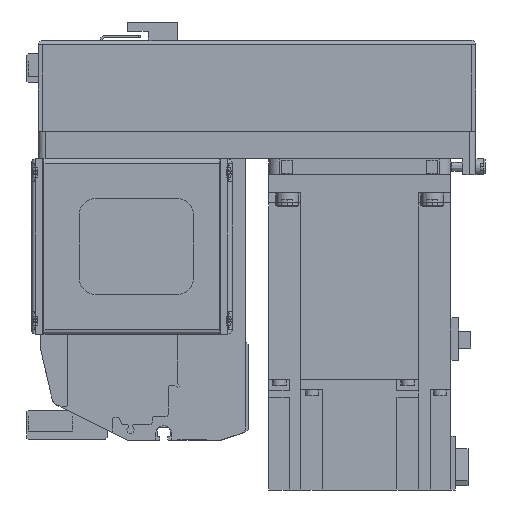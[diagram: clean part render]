
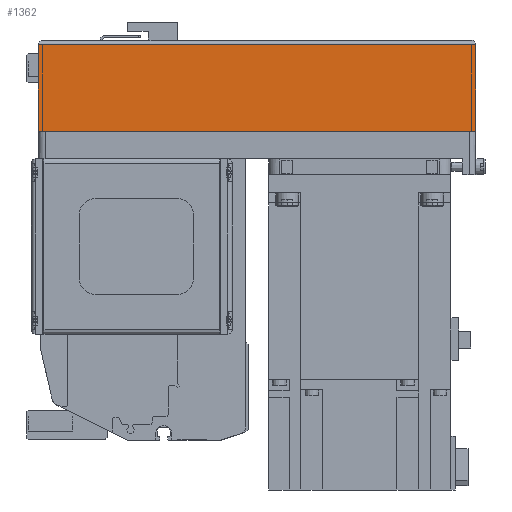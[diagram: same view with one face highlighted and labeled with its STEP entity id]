
A CAD part, left-side view. The second image highlights one B-rep face of the part: STEP entity #1362.
In plain terms, the highlighted planar face has unit normal (-1, 0, 0) as drawn and (0, -1, 0) by its records, which use the part's own axes.
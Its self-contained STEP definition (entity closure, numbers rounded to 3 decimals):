
#1362 = ADVANCED_FACE( '', ( #3787 ), #3788, .T. );
#3787 = FACE_OUTER_BOUND( '', #7715, .T. );
#3788 = PLANE( '', #7716 );
#7715 = EDGE_LOOP( '', ( #11708, #11709, #11710, #11711 ) );
#7716 = AXIS2_PLACEMENT_3D( '', #11712, #11713, #11714 );
#11708 = ORIENTED_EDGE( '', *, *, #21887, .F. );
#11709 = ORIENTED_EDGE( '', *, *, #21888, .F. );
#11710 = ORIENTED_EDGE( '', *, *, #21889, .T. );
#11711 = ORIENTED_EDGE( '', *, *, #21890, .T. );
#11712 = CARTESIAN_POINT( '', ( -192., -40., -12.1 ) );
#11713 = DIRECTION( '', ( 0., -1., 0. ) );
#11714 = DIRECTION( '', ( 0., 0., -1. ) );
#21887 = EDGE_CURVE( '', #25909, #25910, #25911, .T. );
#21888 = EDGE_CURVE( '', #25912, #25909, #25913, .T. );
#21889 = EDGE_CURVE( '', #25912, #25914, #25915, .T. );
#21890 = EDGE_CURVE( '', #25914, #25910, #25916, .T. );
#25909 = VERTEX_POINT( '', #31918 );
#25910 = VERTEX_POINT( '', #31919 );
#25911 = LINE( '', #31920, #31921 );
#25912 = VERTEX_POINT( '', #31922 );
#25913 = LINE( '', #31923, #31924 );
#25914 = VERTEX_POINT( '', #31925 );
#25915 = LINE( '', #31926, #31927 );
#25916 = LINE( '', #31928, #31929 );
#31918 = CARTESIAN_POINT( '', ( 0., -40., -12.1 ) );
#31919 = CARTESIAN_POINT( '', ( 0., -40., -50. ) );
#31920 = CARTESIAN_POINT( '', ( 0., -40., -12.1 ) );
#31921 = VECTOR( '', #41199, 1000. );
#31922 = CARTESIAN_POINT( '', ( -192., -40., -12.1 ) );
#31923 = CARTESIAN_POINT( '', ( -192., -40., -12.1 ) );
#31924 = VECTOR( '', #41200, 1000. );
#31925 = CARTESIAN_POINT( '', ( -192., -40., -50. ) );
#31926 = CARTESIAN_POINT( '', ( -192., -40., -12.1 ) );
#31927 = VECTOR( '', #41201, 1000. );
#31928 = CARTESIAN_POINT( '', ( -192., -40., -50. ) );
#31929 = VECTOR( '', #41202, 1000. );
#41199 = DIRECTION( '', ( 0., 0., -1. ) );
#41200 = DIRECTION( '', ( 1., 0., 0. ) );
#41201 = DIRECTION( '', ( 0., 0., -1. ) );
#41202 = DIRECTION( '', ( 1., 0., 0. ) );
